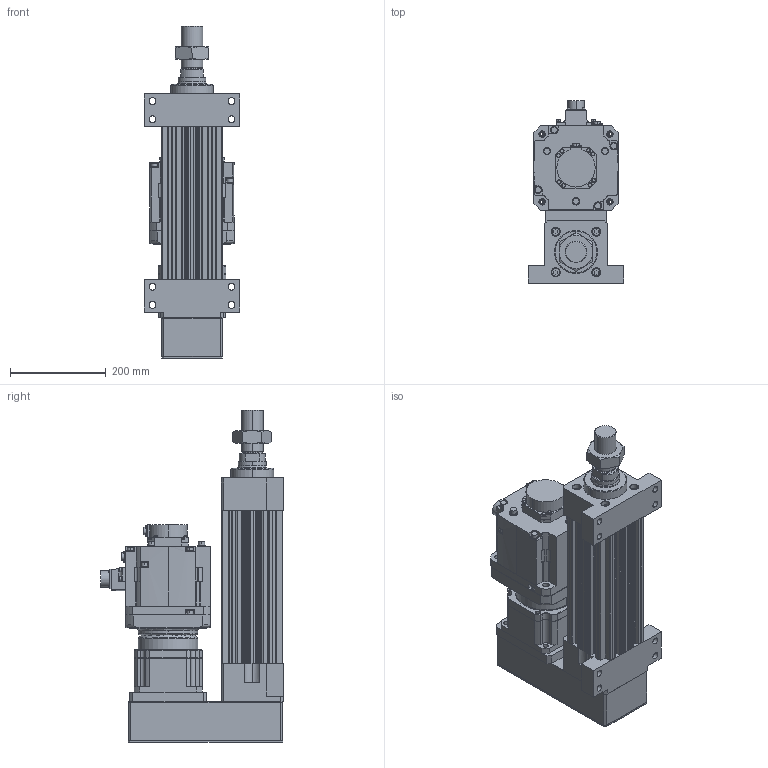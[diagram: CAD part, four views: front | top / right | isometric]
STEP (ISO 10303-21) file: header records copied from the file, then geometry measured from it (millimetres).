
FILE_DESCRIPTION (( 'STEP AP203' ), '1' );
FILE_NAME ('HES130NS(FS)(HS)-P100-W020G00-M-FFB.STEP', '2026-06-10T06:06:24', ( 'tms' ), ( '' ), 'SwSTEP 2.0', 'SolidWorks 2013', '' );
FILE_SCHEMA (( 'CONFIG_CONTROL_DESIGN' ));
Length unit declared in the file: millimetre
Products named in the file (9): AB1423; HES130-FFB-100; HG-SR202B; HES130NS(FS)(HS)-P100-W020G00-M-FFB; HES130-P-G142; HES130-M-ROD-100; AB1422; AB1421; M45X1.5P
Assembly tree (8 placements, depth 2):
  HES130NS(FS)(HS)-P100-W020G00-M-FFB
    HES130-FFB-100
    HES130-M-ROD-100
    M45X1.5P
    HES130-P-G142
    AB1421
    AB1422
    AB1423
    HG-SR202B
Bounding box: 200 x 381.85 x 694 mm (x, y, z)
Volume: 11950079.1 mm3; surface area: 1330049.7 mm2
Topology: 5 solids, 19 shells, 1495 faces, 3890 edges, 2530 vertices
Faces by surface type: cylinder 682, plane 587, cone 144, bspline 76, torus 6
Entity records: 54922 total; most frequent: CARTESIAN_POINT 16717, DIRECTION 7994, ORIENTED_EDGE 7706, EDGE_CURVE 3875, AXIS2_PLACEMENT_3D 3024, VERTEX_POINT 2530, VECTOR 1946, LINE 1946
